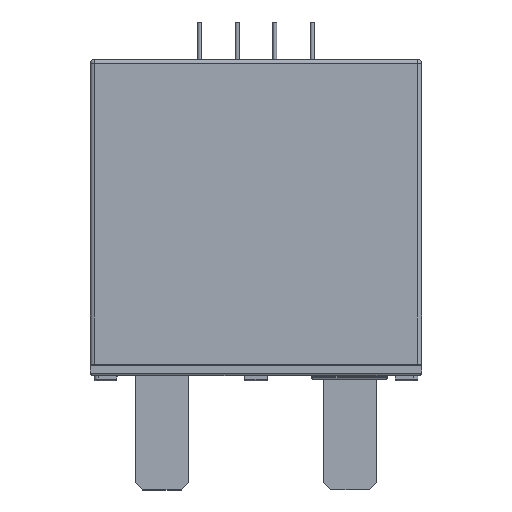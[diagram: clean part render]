
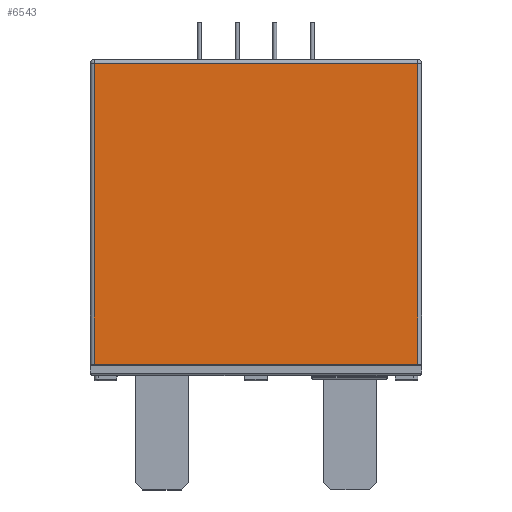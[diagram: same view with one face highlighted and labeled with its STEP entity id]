
A CAD part, top view. The second image highlights one B-rep face of the part: STEP entity #6543.
In plain terms, the highlighted planar face has unit normal (0, 0, 1).
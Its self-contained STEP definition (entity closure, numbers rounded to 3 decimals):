
#2031=DIRECTION('',(1.,0.,0.));
#2032=VECTOR('',#2031,43.);
#2033=CARTESIAN_POINT('',(-21.5,1.5,9.25));
#2034=LINE('',#2033,#2032);
#2696=DIRECTION('',(0.,-1.,0.));
#2697=VECTOR('',#2696,40.);
#2698=CARTESIAN_POINT('',(21.5,41.5,9.25));
#2699=LINE('',#2698,#2697);
#2703=DIRECTION('',(0.,-1.,0.));
#2704=VECTOR('',#2703,40.);
#2705=CARTESIAN_POINT('',(-21.5,41.5,9.25));
#2706=LINE('',#2705,#2704);
#2710=DIRECTION('',(1.,0.,0.));
#2711=VECTOR('',#2710,43.);
#2712=CARTESIAN_POINT('',(-21.5,41.5,9.25));
#2713=LINE('',#2712,#2711);
#3996=CARTESIAN_POINT('',(21.5,1.5,9.25));
#3998=VERTEX_POINT('',#3996);
#3999=CARTESIAN_POINT('',(21.5,41.5,9.25));
#4000=VERTEX_POINT('',#3999);
#4027=CARTESIAN_POINT('',(-21.5,1.5,9.25));
#4029=VERTEX_POINT('',#4027);
#4031=CARTESIAN_POINT('',(-21.5,41.5,9.25));
#4032=VERTEX_POINT('',#4031);
#6530=CARTESIAN_POINT('',(-22.,1.5,9.25));
#6531=DIRECTION('',(0.,0.,1.));
#6532=DIRECTION('',(1.,0.,0.));
#6533=AXIS2_PLACEMENT_3D('',#6530,#6531,#6532);
#6534=PLANE('',#6533);
#6535=ORIENTED_EDGE('',*,*,#6521,.T.);
#6536=ORIENTED_EDGE('',*,*,#5840,.F.);
#6538=ORIENTED_EDGE('',*,*,#6537,.F.);
#6540=ORIENTED_EDGE('',*,*,#6539,.T.);
#6541=EDGE_LOOP('',(#6535,#6536,#6538,#6540));
#6542=FACE_OUTER_BOUND('',#6541,.F.);
#6543=ADVANCED_FACE('',(#6542),#6534,.T.);
#5840=EDGE_CURVE('',#4029,#3998,#2034,.T.);
#6521=EDGE_CURVE('',#4000,#3998,#2699,.T.);
#6537=EDGE_CURVE('',#4032,#4029,#2706,.T.);
#6539=EDGE_CURVE('',#4032,#4000,#2713,.T.);
